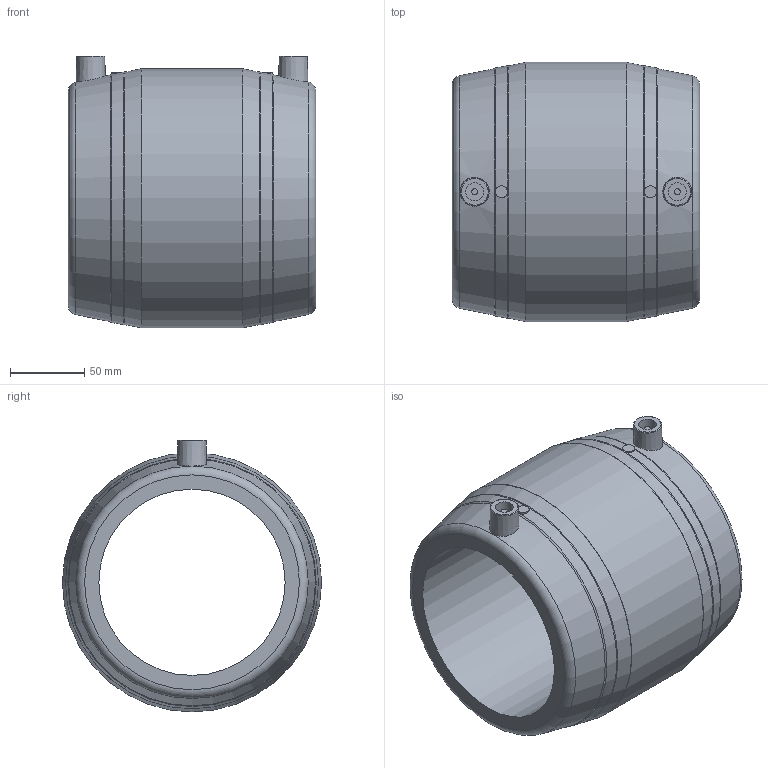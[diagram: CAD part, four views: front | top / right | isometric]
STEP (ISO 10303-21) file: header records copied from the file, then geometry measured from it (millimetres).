
FILE_DESCRIPTION(/* description */ ('Unknown'),/* implementation_level */ '2;1');
FILE_NAME(/* name */ 'MP125H',/* time_stamp */ '2021-05-26T17:37:26+02:00',/* author */ ('Unknown'),/* organization */ ('Unknown'),/* preprocessor_version */ 'ST-DEVELOPER v16.7',/* originating_system */ 'Solid Edge',/* authorisation */ 'Unknown');
FILE_SCHEMA (('AUTOMOTIVE_DESIGN {1 0 10303 214 3 1 1}'));
Length unit declared in the file: millimetre
Products named in the file (1): MP125H
Bounding box: 166 x 174 x 182.5 mm (x, y, z)
Volume: 1657567.2 mm3; surface area: 168520.9 mm2
Topology: 1 solids, 1 shells, 36 faces, 82 edges, 52 vertices
Faces by surface type: plane 10, torus 10, cone 8, cylinder 8
Full cylindrical faces by diameter (mm): 4 x2, 8 x2, 12 x2, 125 x1, 174 x1
Entity records: 814 total; most frequent: CARTESIAN_POINT 173, DIRECTION 138, ORIENTED_EDGE 76, EDGE_LOOP 70, FACE_BOUND 70, AXIS2_PLACEMENT_3D 69, EDGE_CURVE 38, VERTEX_POINT 36
